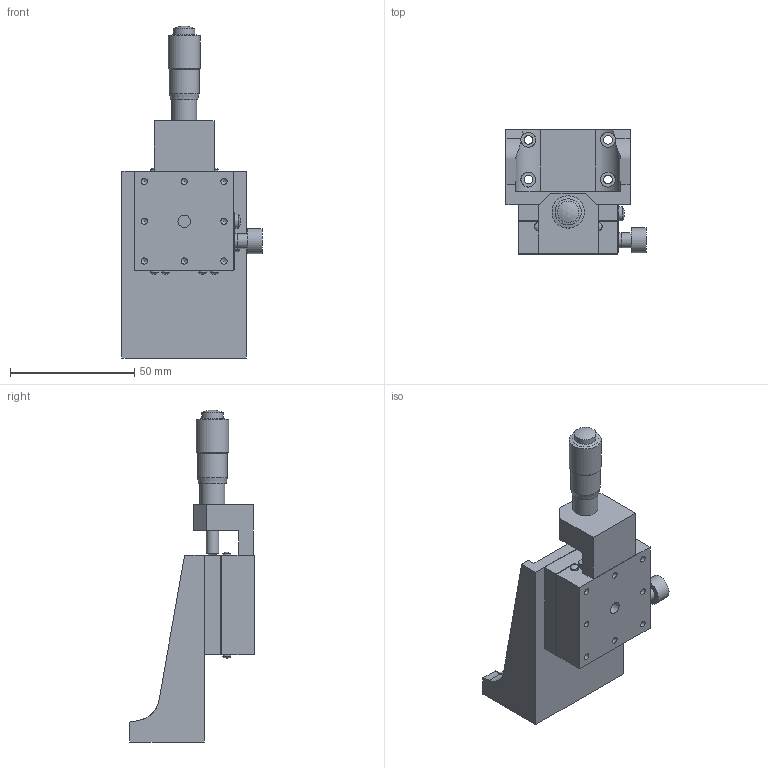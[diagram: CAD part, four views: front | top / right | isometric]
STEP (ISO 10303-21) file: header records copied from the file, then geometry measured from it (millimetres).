
FILE_DESCRIPTION( ( 'STEP AP214' ), '1' );
FILE_NAME( 'C:/Project/3D_B31-40A-配布-070508.stp', '2007-05-08T10:43:12', ( ' ' ), ( ' ' ), 'XStep 1.0', ' ', ' ' );
FILE_SCHEMA( ( 'automotive_design' ) );
Length unit declared in the file: millimetre
Products named in the file (4): 1; 2; 3; 4
Bounding box: 56.3 x 50 x 133.5 mm (x, y, z)
Volume: 71064.2 mm3; surface area: 32506.2 mm2
Topology: 4 solids, 4 shells, 158 faces, 386 edges, 256 vertices
Faces by surface type: plane 86, cylinder 49, sphere 12, cone 11
Full cylindrical faces by diameter (mm): 2.5 x8, 3 x1, 3.2 x8, 3.5 x4, 5 x3, 5.6 x2, 6 x6, 8.6 x1, 9 x1, 10 x2, 10.5 x1, 12 x1, 13 x1
Entity records: 5827 total; most frequent: CARTESIAN_POINT 988, DIRECTION 728, ORIENTED_EDGE 628, EDGE_CURVE 314, AXIS2_PLACEMENT_3D 260, EDGE_LOOP 242, VERTEX_POINT 242, LINE 208
